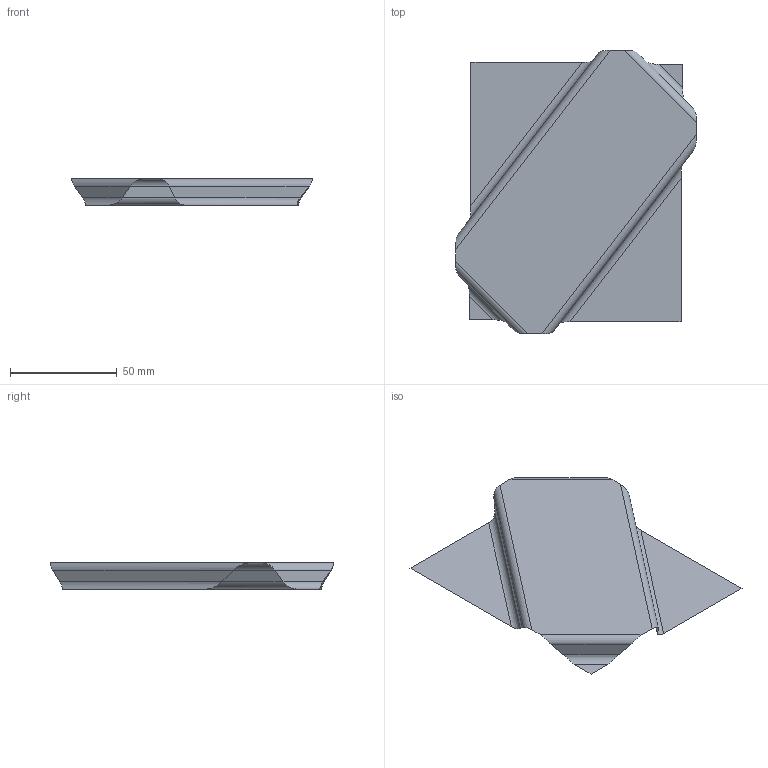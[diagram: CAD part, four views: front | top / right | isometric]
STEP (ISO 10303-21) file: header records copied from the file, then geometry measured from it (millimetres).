
FILE_DESCRIPTION(('CATIA V5 STEP Exchange'),'2;1');
FILE_NAME('C:\_Andres\UNIVERSIDAD\IQS\ASIGNATURAS\DAO\EXF\EXF-15161c\1original\Sánchez_Albiol_Ej03-chapa_v23.stp','2016-03-04T16:56:11+00:00',('none'),('none'),'CATIA Version 5 Release 20 SP 1 (IN-10)','CATIA V5 STEP AP203','none');
FILE_SCHEMA(('CONFIG_CONTROL_DESIGN'));
Length unit declared in the file: millimetre
Products named in the file (1): Sánchez_Albiol_Ej03-chapa_v23
Bounding box: 113.01 x 133.01 x 12.29 mm (x, y, z)
Surface area: 15075.5 mm2 (no closed solid volume)
Topology: 0 solids, 1 shells, 17 faces, 52 edges, 36 vertices
Faces by surface type: plane 9, cylinder 8
Entity records: 622 total; most frequent: CARTESIAN_POINT 203, ORIENTED_EDGE 68, DIRECTION 56, EDGE_CURVE 52, VERTEX_POINT 36, B_SPLINE_CURVE_WITH_KNOTS 32, VECTOR 20, LINE 20
